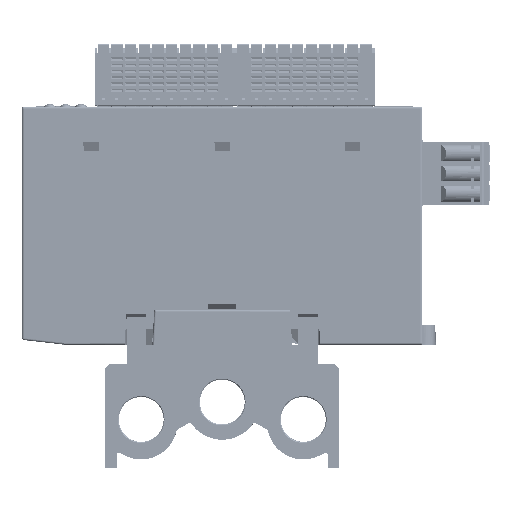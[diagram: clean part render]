
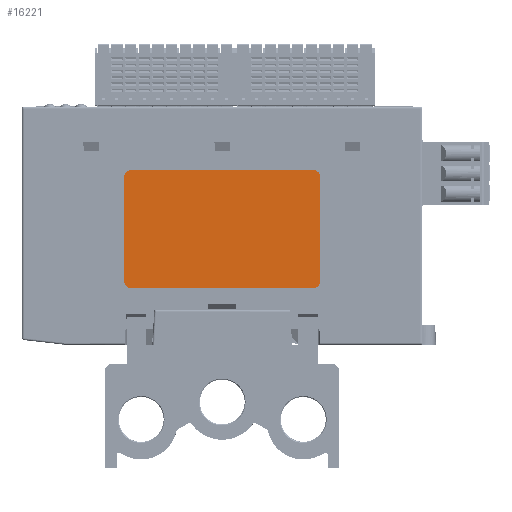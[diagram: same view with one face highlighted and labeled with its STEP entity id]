
A CAD part, front view. The second image highlights one B-rep face of the part: STEP entity #16221.
In plain terms, the highlighted planar face has unit normal (0, -1, 0).
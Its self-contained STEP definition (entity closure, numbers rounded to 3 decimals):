
#6948=FACE_OUTER_BOUND('',#70236,.T.);
#16221=ADVANCED_FACE('',(#6948),#25729,.F.);
#25729=PLANE('',#178416);
#33352=LINE('',#248725,#51326);
#33356=LINE('',#248733,#51330);
#33358=LINE('',#248737,#51332);
#33361=LINE('',#248745,#51335);
#51326=VECTOR('',#195923,1.);
#51330=VECTOR('',#195929,1.);
#51332=VECTOR('',#195933,1.);
#51335=VECTOR('',#195940,1.);
#70236=EDGE_LOOP('',(#83597,#83598,#83599,#83600,#83601,#83602,#83603,#83604));
#83597=ORIENTED_EDGE('',*,*,#149738,.F.);
#83598=ORIENTED_EDGE('',*,*,#149743,.T.);
#83599=ORIENTED_EDGE('',*,*,#149744,.F.);
#83600=ORIENTED_EDGE('',*,*,#149745,.T.);
#83601=ORIENTED_EDGE('',*,*,#149740,.F.);
#83602=ORIENTED_EDGE('',*,*,#149746,.T.);
#83603=ORIENTED_EDGE('',*,*,#149734,.F.);
#83604=ORIENTED_EDGE('',*,*,#149747,.T.);
#132717=VERTEX_POINT('',#248726);
#132718=VERTEX_POINT('',#248727);
#132719=VERTEX_POINT('',#248732);
#132720=VERTEX_POINT('',#248734);
#132721=VERTEX_POINT('',#248738);
#132722=VERTEX_POINT('',#248739);
#132723=VERTEX_POINT('',#248744);
#132724=VERTEX_POINT('',#248746);
#149734=EDGE_CURVE('',#132717,#132718,#33352,.T.);
#149738=EDGE_CURVE('',#132719,#132720,#33356,.T.);
#149740=EDGE_CURVE('',#132721,#132722,#33358,.T.);
#149743=EDGE_CURVE('',#132719,#132723,#173106,.T.);
#149744=EDGE_CURVE('',#132724,#132723,#33361,.T.);
#149745=EDGE_CURVE('',#132724,#132722,#173107,.T.);
#149746=EDGE_CURVE('',#132721,#132718,#173108,.T.);
#149747=EDGE_CURVE('',#132717,#132720,#173109,.T.);
#173106=CIRCLE('',#178412,1.8);
#173107=CIRCLE('',#178413,1.8);
#173108=CIRCLE('',#178414,1.8);
#173109=CIRCLE('',#178415,1.8);
#178412=AXIS2_PLACEMENT_3D('',#248743,#195938,#195939);
#178413=AXIS2_PLACEMENT_3D('',#248747,#195941,#195942);
#178414=AXIS2_PLACEMENT_3D('',#248748,#195943,#195944);
#178415=AXIS2_PLACEMENT_3D('',#248749,#195945,#195946);
#178416=AXIS2_PLACEMENT_3D('',#248750,#195947,#195948);
#195923=DIRECTION('',(0.,0.,-1.));
#195929=DIRECTION('',(1.,0.,0.));
#195933=DIRECTION('',(-1.,0.,0.));
#195938=DIRECTION('',(0.,-1.,0.));
#195939=DIRECTION('',(0.,0.,1.));
#195940=DIRECTION('',(0.,0.,1.));
#195941=DIRECTION('',(0.,-1.,0.));
#195942=DIRECTION('',(0.,0.,-1.));
#195943=DIRECTION('',(0.,-1.,0.));
#195944=DIRECTION('',(0.,0.,-1.));
#195945=DIRECTION('',(0.,-1.,0.));
#195946=DIRECTION('',(0.,0.,-1.));
#195947=DIRECTION('',(0.,1.,0.));
#195948=DIRECTION('',(0.,0.,-1.));
#248725=CARTESIAN_POINT('',(725.15,-102.64,34.634));
#248726=CARTESIAN_POINT('',(725.15,-102.64,47.934));
#248727=CARTESIAN_POINT('',(725.15,-102.64,21.334));
#248732=CARTESIAN_POINT('',(676.75,-102.64,49.734));
#248733=CARTESIAN_POINT('',(700.05,-102.64,49.734));
#248734=CARTESIAN_POINT('',(723.35,-102.64,49.734));
#248737=CARTESIAN_POINT('',(675.05,-102.64,19.534));
#248738=CARTESIAN_POINT('',(723.35,-102.64,19.534));
#248739=CARTESIAN_POINT('',(676.75,-102.64,19.534));
#248743=CARTESIAN_POINT('',(676.75,-102.64,47.934));
#248744=CARTESIAN_POINT('',(674.95,-102.64,47.934));
#248745=CARTESIAN_POINT('',(674.95,-102.64,34.634));
#248746=CARTESIAN_POINT('',(674.95,-102.64,21.334));
#248747=CARTESIAN_POINT('',(676.75,-102.64,21.334));
#248748=CARTESIAN_POINT('',(723.35,-102.64,21.334));
#248749=CARTESIAN_POINT('',(723.35,-102.64,47.934));
#248750=CARTESIAN_POINT('',(700.041,-102.64,23.341));
